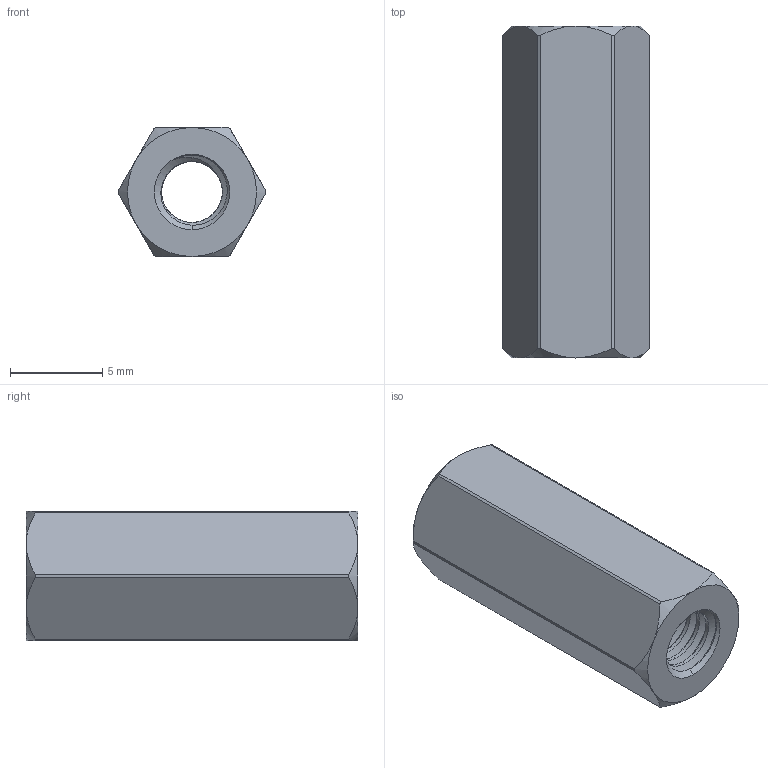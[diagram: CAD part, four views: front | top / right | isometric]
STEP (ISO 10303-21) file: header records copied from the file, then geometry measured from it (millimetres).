
FILE_DESCRIPTION (( 'STEP AP203' ), '1' );
FILE_NAME ('1516-4008-0180.STEP', '2023-02-10T19:37:36', ( '' ), ( '' ), 'SwSTEP 2.0', 'SolidWorks 2016', '' );
FILE_SCHEMA (( 'CONFIG_CONTROL_DESIGN' ));
Length unit declared in the file: millimetre
Products named in the file (1): 1516-4008-0180
Bounding box: 8 x 18 x 7 mm (x, y, z)
Volume: 578.1 mm3; surface area: 811.9 mm2
Topology: 1 solids, 1 shells, 143 faces, 408 edges, 267 vertices
Faces by surface type: cylinder 112, cone 17, plane 10, bspline 4
Entity records: 10102 total; most frequent: CARTESIAN_POINT 6977, ORIENTED_EDGE 816, DIRECTION 481, EDGE_CURVE 408, VERTEX_POINT 267, AXIS2_PLACEMENT_3D 181, EDGE_LOOP 145, ADVANCED_FACE 143
